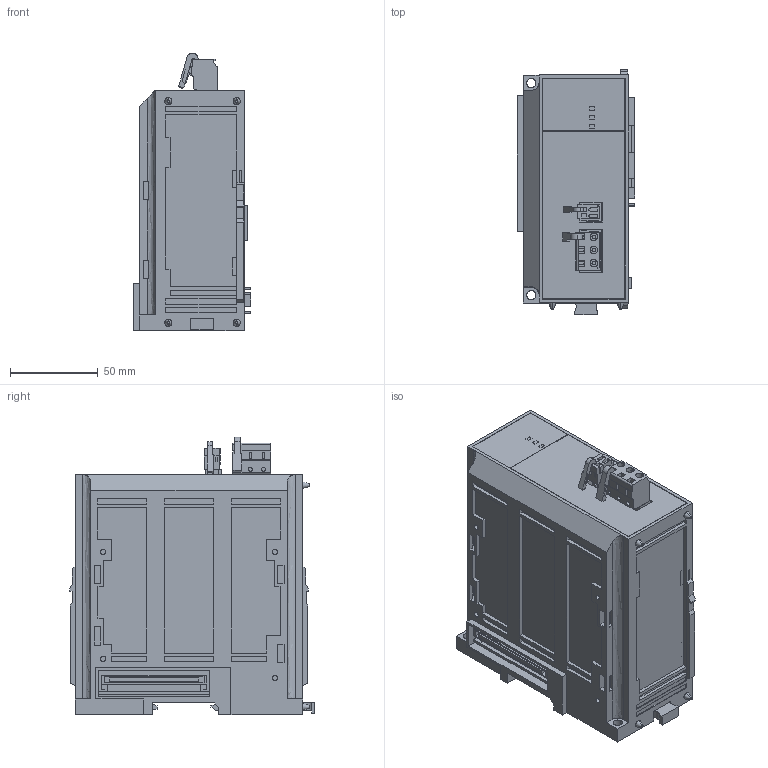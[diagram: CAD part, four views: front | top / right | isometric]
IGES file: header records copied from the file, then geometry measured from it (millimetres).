
Start section: SolidWorks IGES file using analytic representation for surfaces
Global section: file name: D:\YASKAWA\jepmc_psa3012_e.IGS; native system: SolidWorks 2006 by SolidWorks Corporation; preprocessor: SolidWorks 2006 by SolidWorks Corporation; author: yamanouchi; date: 120821.132708; units: millimetre
Bounding box: 67 x 140 x 158.36 mm (x, y, z)
Surface area: 94052.6 mm2 (no closed solid volume)
Topology: 0 solids, 0 shells, 790 faces, 5776 edges, 5776 vertices
Faces by surface type: bspline 723, revolution 67
